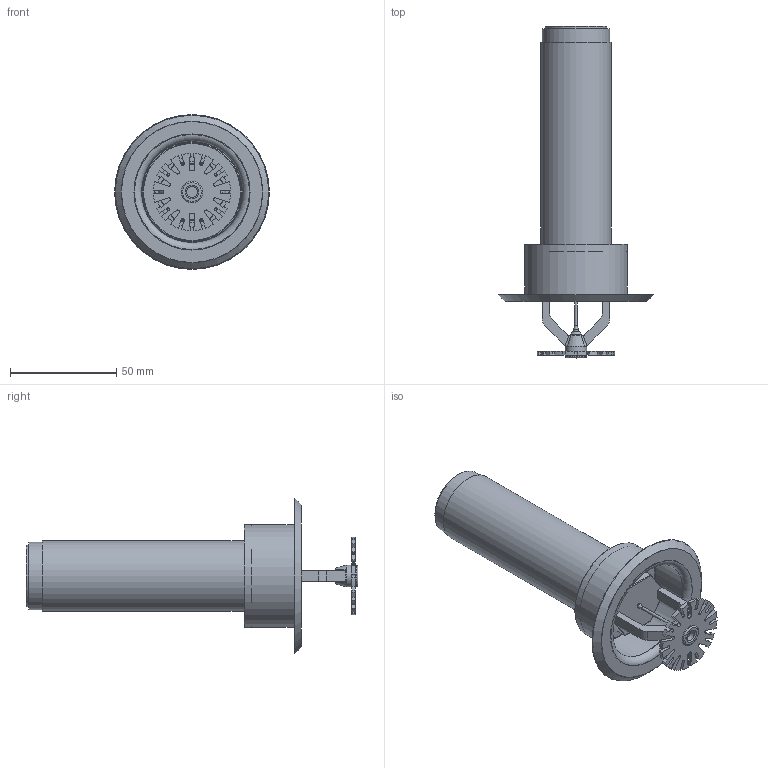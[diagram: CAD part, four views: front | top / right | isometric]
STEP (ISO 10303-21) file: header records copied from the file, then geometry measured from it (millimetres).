
FILE_DESCRIPTION(/* description */ ('VIC SPRINKLER V3613 K5.6 DRY RECESSED PENDENT STANDARD RESPONSE (NPT)'),/* implementation_level */ '2;1');
FILE_NAME(/* name */ 'C:\Files for Export\step\Victaulic_FP-Sprinkler_V3613_DRY_SR_Recessed Pendent (NPT)\Victaulic_FP-Sprinkler_V3613_DRY_SR_Recessed Pendent (NPT)_1 (25).stp',/* time_stamp */ '2024-09-24T07:42:32+02:00',/* author */ ('VJadhav'),/* organization */ ('Victaulic'),/* preprocessor_version */ 'ST-DEVELOPER v18',/* originating_system */ 'Autodesk Inventor 2020',/* authorisation */ '');
FILE_SCHEMA (('AUTOMOTIVE_DESIGN { 1 0 10303 214 3 1 1 }'));
Length unit declared in the file: inch
Products named in the file (1): V3613_REC-01.0
Bounding box: 73.03 x 156.53 x 73.03 mm (x, y, z)
Volume: 46063.4 mm3; surface area: 44071.4 mm2
Topology: 2 solids, 3 shells, 247 faces, 666 edges, 432 vertices
Faces by surface type: plane 115, cylinder 92, sphere 12, cone 10, bspline 10, torus 8
Full cylindrical faces by diameter (mm): 1.27 x1, 5.08 x2, 10.16 x2, 20.93 x2, 26.645 x1, 26.67 x1, 29.185 x1, 29.21 x1, 31.725 x1, 33.401 x1, 47.911 x2, 48.419 x1
Entity records: 8415 total; most frequent: CARTESIAN_POINT 1748, DIRECTION 1384, ORIENTED_EDGE 1322, EDGE_CURVE 661, AXIS2_PLACEMENT_3D 516, VERTEX_POINT 432, LINE 352, VECTOR 352
